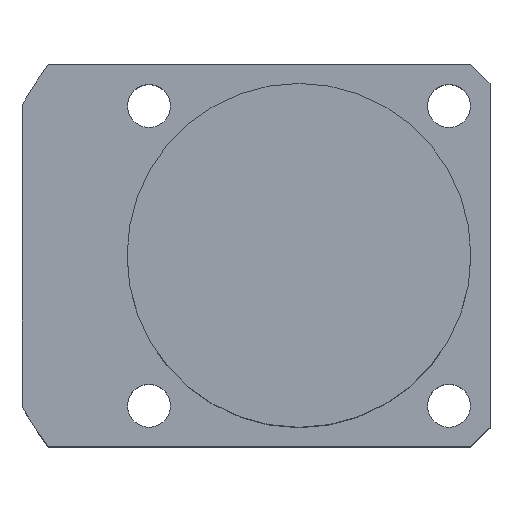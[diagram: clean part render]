
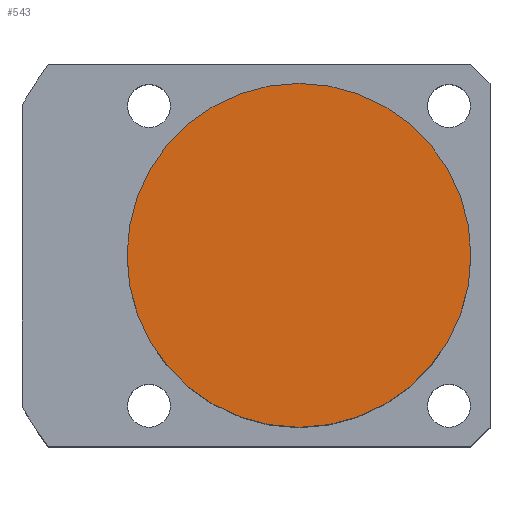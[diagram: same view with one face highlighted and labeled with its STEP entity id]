
A CAD part, top view. The second image highlights one B-rep face of the part: STEP entity #543.
In plain terms, the highlighted planar face has unit normal (0, 0, 1).
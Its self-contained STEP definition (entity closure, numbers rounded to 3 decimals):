
#141 = DIRECTION ( 'NONE',  ( 1., 0., 0. ) ) ;
#173 = DIRECTION ( 'NONE',  ( 0., 0., 1. ) ) ;
#333 = DIRECTION ( 'NONE',  ( 1., 0., 0. ) ) ;
#543 = ADVANCED_FACE ( 'NONE', ( #3700 ), #3130, .T. ) ;
#733 = AXIS2_PLACEMENT_3D ( 'NONE', #2959, #173, #141 ) ;
#759 = ORIENTED_EDGE ( 'NONE', *, *, #3998, .T. ) ;
#971 = EDGE_CURVE ( 'NONE', #982, #2081, #1943, .T. ) ;
#982 = VERTEX_POINT ( 'NONE', #3874 ) ;
#1213 = DIRECTION ( 'NONE',  ( 1., 0., 0. ) ) ;
#1943 = CIRCLE ( 'NONE', #733, 18. ) ;
#1977 = EDGE_LOOP ( 'NONE', ( #2185, #759 ) ) ;
#2081 = VERTEX_POINT ( 'NONE', #3133 ) ;
#2142 = CARTESIAN_POINT ( 'NONE',  ( 0., 0., 38.5 ) ) ;
#2185 = ORIENTED_EDGE ( 'NONE', *, *, #971, .T. ) ;
#2194 = DIRECTION ( 'NONE',  ( 0., 0., 1. ) ) ;
#2467 = AXIS2_PLACEMENT_3D ( 'NONE', #3481, #2194, #333 ) ;
#2794 = AXIS2_PLACEMENT_3D ( 'NONE', #2142, #3106, #1213 ) ;
#2959 = CARTESIAN_POINT ( 'NONE',  ( 0., 0., 38.5 ) ) ;
#3106 = DIRECTION ( 'NONE',  ( 0., 0., 1. ) ) ;
#3130 = PLANE ( 'NONE',  #2794 ) ;
#3133 = CARTESIAN_POINT ( 'NONE',  ( 18., 0., 38.5 ) ) ;
#3481 = CARTESIAN_POINT ( 'NONE',  ( 0., 0., 38.5 ) ) ;
#3700 = FACE_OUTER_BOUND ( 'NONE', #1977, .T. ) ;
#3848 = CIRCLE ( 'NONE', #2467, 18. ) ;
#3874 = CARTESIAN_POINT ( 'NONE',  ( -18., 0., 38.5 ) ) ;
#3998 = EDGE_CURVE ( 'NONE', #2081, #982, #3848, .T. ) ;
